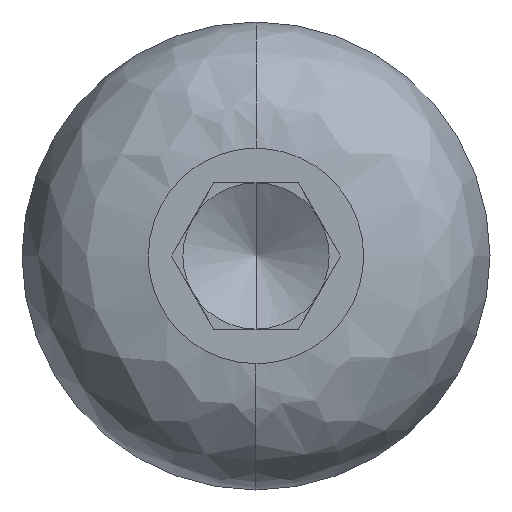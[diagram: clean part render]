
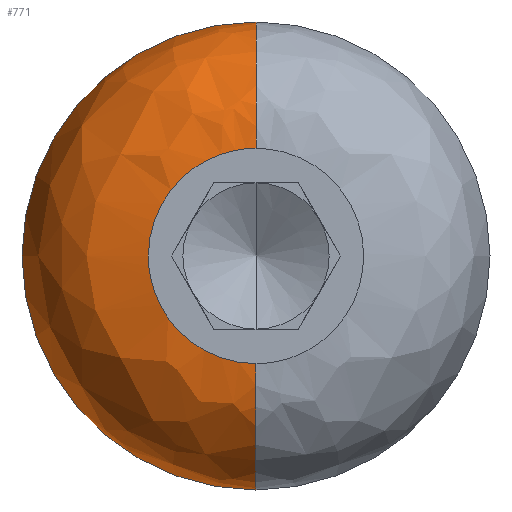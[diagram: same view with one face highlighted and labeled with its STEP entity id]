
A CAD part, left-side view. The second image highlights one B-rep face of the part: STEP entity #771.
In plain terms, the highlighted free-form (B-spline) face has degree [3, 3] with [4, 4] control points.
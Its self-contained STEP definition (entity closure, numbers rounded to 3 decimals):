
#3 = DIRECTION ( 'NONE',  ( 1., 0., 0. ) ) ;
#12 = CARTESIAN_POINT ( 'NONE',  ( 2.16, 0., 0. ) ) ;
#24 = ORIENTED_EDGE ( 'NONE', *, *, #507, .F. ) ;
#27 = DIRECTION ( 'NONE',  ( 0., 0., 1. ) ) ;
#31 = CARTESIAN_POINT ( 'NONE',  ( 0., 3.68, -1.84 ) ) ;
#34 = CARTESIAN_POINT ( 'NONE',  ( 2.16, 0., -4. ) ) ;
#51 = CARTESIAN_POINT ( 'NONE',  ( 0., 1.078, -1.84 ) ) ;
#88 = CARTESIAN_POINT ( 'NONE',  ( 0., 0., 3.105 ) ) ;
#89 =( BOUNDED_CURVE ( )  B_SPLINE_CURVE ( 3, ( #496, #51, #555, #314 ),
 .UNSPECIFIED., .F., .T. ) 
 B_SPLINE_CURVE_WITH_KNOTS ( ( 4, 4 ),
 ( 0., 1. ),
 .UNSPECIFIED. ) 
 CURVE ( )  GEOMETRIC_REPRESENTATION_ITEM ( )  RATIONAL_B_SPLINE_CURVE ( ( 1., 0.805, 0.805, 1. ) ) 
 REPRESENTATION_ITEM ( '' )  );
#145 =( BOUNDED_CURVE ( )  B_SPLINE_CURVE ( 3, ( #261, #202, #321, #753 ),
 .UNSPECIFIED., .F., .F. ) 
 B_SPLINE_CURVE_WITH_KNOTS ( ( 4, 4 ),
 ( 0., 1. ),
 .UNSPECIFIED. ) 
 CURVE ( )  GEOMETRIC_REPRESENTATION_ITEM ( )  RATIONAL_B_SPLINE_CURVE ( ( 1., 0.805, 0.805, 1. ) ) 
 REPRESENTATION_ITEM ( '' )  );
#150 = CARTESIAN_POINT ( 'NONE',  ( 0., 6.211, -3.105 ) ) ;
#152 = CARTESIAN_POINT ( 'NONE',  ( 2.16, 0., -4. ) ) ;
#165 = AXIS2_PLACEMENT_3D ( 'NONE', #12, #3, #696 ) ;
#202 = CARTESIAN_POINT ( 'NONE',  ( 0., 1.84, 1.078 ) ) ;
#207 = CARTESIAN_POINT ( 'NONE',  ( 0.895, 0., 4. ) ) ;
#210 = FACE_OUTER_BOUND ( 'NONE', #211, .T. ) ;
#211 = EDGE_LOOP ( 'NONE', ( #493, #599, #399, #473, #24 ) ) ;
#231 = CIRCLE ( 'NONE', #165, 4. ) ;
#249 = CARTESIAN_POINT ( 'NONE',  ( 2.16, 0., 4. ) ) ;
#261 = CARTESIAN_POINT ( 'NONE',  ( 0., 1.84, 0. ) ) ;
#264 = CARTESIAN_POINT ( 'NONE',  ( 0., 0., 1.84 ) ) ;
#265 = AXIS2_PLACEMENT_3D ( 'NONE', #685, #674, #622 ) ;
#266 = CARTESIAN_POINT ( 'NONE',  ( 0.895, 8., -4. ) ) ;
#272 = VERTEX_POINT ( 'NONE', #483 ) ;
#303 = CIRCLE ( 'NONE', #501, 2.16 ) ;
#314 = CARTESIAN_POINT ( 'NONE',  ( 0., 1.84, 0. ) ) ;
#321 = CARTESIAN_POINT ( 'NONE',  ( 0., 1.078, 1.84 ) ) ;
#327 = CARTESIAN_POINT ( 'NONE',  ( 2.16, 0., 4. ) ) ;
#375 = DIRECTION ( 'NONE',  ( 0., 1., 0. ) ) ;
#380 = CARTESIAN_POINT ( 'NONE',  ( 2.16, 8., -4. ) ) ;
#397 = EDGE_CURVE ( 'NONE', #272, #776, #463, .T. ) ;
#399 = ORIENTED_EDGE ( 'NONE', *, *, #763, .T. ) ;
#437 = CARTESIAN_POINT ( 'NONE',  ( 0., 0., -1.84 ) ) ;
#458 = EDGE_CURVE ( 'NONE', #272, #744, #89, .T. ) ;
#461 = VERTEX_POINT ( 'NONE', #730 ) ;
#463 = CIRCLE ( 'NONE', #265, 2.16 ) ;
#473 = ORIENTED_EDGE ( 'NONE', *, *, #675, .T. ) ;
#483 = CARTESIAN_POINT ( 'NONE',  ( 0., 0., -1.84 ) ) ;
#493 = ORIENTED_EDGE ( 'NONE', *, *, #397, .F. ) ;
#496 = CARTESIAN_POINT ( 'NONE',  ( 0., 0., -1.84 ) ) ;
#499 = CARTESIAN_POINT ( 'NONE',  ( 0., 1.84, 0. ) ) ;
#501 = AXIS2_PLACEMENT_3D ( 'NONE', #754, #375, #27 ) ;
#502 = CARTESIAN_POINT ( 'NONE',  ( 0., 3.68, 1.84 ) ) ;
#506 = CARTESIAN_POINT ( 'NONE',  ( 0., 6.211, 3.105 ) ) ;
#507 = EDGE_CURVE ( 'NONE', #776, #638, #231, .T. ) ;
#555 = CARTESIAN_POINT ( 'NONE',  ( 0., 1.84, -1.078 ) ) ;
#561 = CARTESIAN_POINT ( 'NONE',  ( 0., 0., -3.105 ) ) ;
#599 = ORIENTED_EDGE ( 'NONE', *, *, #458, .T. ) ;
#622 = DIRECTION ( 'NONE',  ( 0., 0., -1. ) ) ;
#632 = CARTESIAN_POINT ( 'NONE',  ( 0.895, 8., 4. ) ) ;
#638 = VERTEX_POINT ( 'NONE', #249 ) ;
#674 = DIRECTION ( 'NONE',  ( 0., -1., 0. ) ) ;
#675 = EDGE_CURVE ( 'NONE', #461, #638, #303, .T. ) ;
#685 = CARTESIAN_POINT ( 'NONE',  ( 2.16, 0., -1.84 ) ) ;
#695 = CARTESIAN_POINT ( 'NONE',  ( 0.895, 0., -4. ) ) ;
#696 = DIRECTION ( 'NONE',  ( 0., 0., 1. ) ) ;
#704 =( BOUNDED_SURFACE ( )  B_SPLINE_SURFACE ( 3, 3, ( 
 ( #264, #502, #31, #437 ),
 ( #88, #506, #150, #561 ),
 ( #207, #632, #266, #695 ),
 ( #327, #761, #380, #34 ) ),
 .UNSPECIFIED., .F., .F., .T. ) 
 B_SPLINE_SURFACE_WITH_KNOTS ( ( 4, 4 ),
 ( 4, 4 ),
 ( 0., 1. ),
 ( 0., 1. ),
 .UNSPECIFIED. ) 
 GEOMETRIC_REPRESENTATION_ITEM ( )  RATIONAL_B_SPLINE_SURFACE ( (
 ( 1., 0.333, 0.333, 1.),
 ( 0.805, 0.268, 0.268, 0.805),
 ( 0.805, 0.268, 0.268, 0.805),
 ( 1., 0.333, 0.333, 1.) ) ) 
 REPRESENTATION_ITEM ( '' )  SURFACE ( )  );
#730 = CARTESIAN_POINT ( 'NONE',  ( 0., 0., 1.84 ) ) ;
#744 = VERTEX_POINT ( 'NONE', #499 ) ;
#753 = CARTESIAN_POINT ( 'NONE',  ( 0., 0., 1.84 ) ) ;
#754 = CARTESIAN_POINT ( 'NONE',  ( 2.16, 0., 1.84 ) ) ;
#761 = CARTESIAN_POINT ( 'NONE',  ( 2.16, 8., 4. ) ) ;
#763 = EDGE_CURVE ( 'NONE', #744, #461, #145, .T. ) ;
#771 = ADVANCED_FACE ( 'NONE', ( #210 ), #704, .T. ) ;
#776 = VERTEX_POINT ( 'NONE', #152 ) ;
